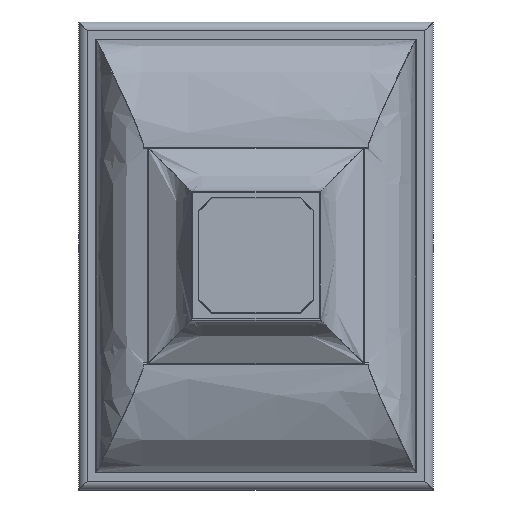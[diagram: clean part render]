
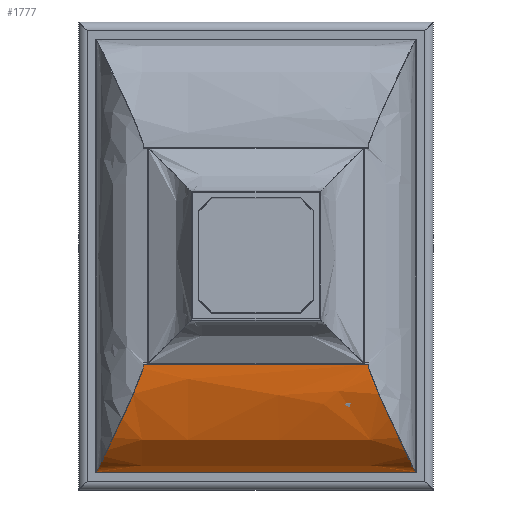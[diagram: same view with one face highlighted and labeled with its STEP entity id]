
A CAD part, top view. The second image highlights one B-rep face of the part: STEP entity #1777.
In plain terms, the highlighted face is a extrusion surface.
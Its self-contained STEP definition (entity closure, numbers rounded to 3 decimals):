
#1153=CARTESIAN_POINT('Vertex',(307.,-415.848,8.505)) ;
#1157=CARTESIAN_POINT('Control Point',(307.,-416.,5.007)) ;
#1158=CARTESIAN_POINT('Control Point',(307.,-415.982,5.707)) ;
#1159=CARTESIAN_POINT('Control Point',(307.,-415.958,6.407)) ;
#1160=CARTESIAN_POINT('Control Point',(307.,-415.928,7.106)) ;
#1161=CARTESIAN_POINT('Control Point',(307.,-415.891,7.806)) ;
#1162=CARTESIAN_POINT('Control Point',(307.,-415.848,8.505)) ;
#1163=CARTESIAN_POINT('Vertex',(307.,-416.,5.007)) ;
#1654=CARTESIAN_POINT('Control Point',(307.,-416.,5.007)) ;
#1655=CARTESIAN_POINT('Control Point',(307.,-415.906,8.698)) ;
#1656=CARTESIAN_POINT('Control Point',(307.,-415.638,12.389)) ;
#1657=CARTESIAN_POINT('Control Point',(307.,-415.187,16.073)) ;
#1658=CARTESIAN_POINT('Control Point',(307.,-413.578,24.713)) ;
#1659=CARTESIAN_POINT('Control Point',(307.,-410.657,33.02)) ;
#1660=CARTESIAN_POINT('Control Point',(307.,-408.515,37.657)) ;
#1661=CARTESIAN_POINT('Control Point',(307.,-403.72,46.294)) ;
#1662=CARTESIAN_POINT('Control Point',(307.,-397.913,54.251)) ;
#1663=CARTESIAN_POINT('Control Point',(307.,-394.922,57.936)) ;
#1664=CARTESIAN_POINT('Control Point',(307.,-385.937,67.945)) ;
#1665=CARTESIAN_POINT('Control Point',(307.,-375.677,76.701)) ;
#1666=CARTESIAN_POINT('Control Point',(307.,-368.586,81.875)) ;
#1667=CARTESIAN_POINT('Control Point',(307.,-350.786,93.224)) ;
#1668=CARTESIAN_POINT('Control Point',(307.,-331.647,102.153)) ;
#1669=CARTESIAN_POINT('Control Point',(307.,-320.232,106.64)) ;
#1670=CARTESIAN_POINT('Control Point',(307.,-297.003,114.277)) ;
#1671=CARTESIAN_POINT('Control Point',(307.,-273.071,119.46)) ;
#1672=CARTESIAN_POINT('Control Point',(307.,-260.999,121.481)) ;
#1673=CARTESIAN_POINT('Control Point',(307.,-243.352,123.64)) ;
#1674=CARTESIAN_POINT('Control Point',(307.,-225.643,124.679)) ;
#1675=CARTESIAN_POINT('Control Point',(307.,-220.099,124.895)) ;
#1676=CARTESIAN_POINT('Control Point',(307.,-214.552,125.002)) ;
#1677=CARTESIAN_POINT('Control Point',(307.,-209.,125.)) ;
#1681=CARTESIAN_POINT('Line Origine',(-0.66,-209.,125.)) ;
#1685=CARTESIAN_POINT('Vertex',(215.723,-209.,125.)) ;
#1687=CARTESIAN_POINT('Vertex',(-215.723,-209.,125.)) ;
#1691=CARTESIAN_POINT('Control Point',(-215.723,-209.,125.)) ;
#1692=CARTESIAN_POINT('Control Point',(-215.711,-211.15,125.001)) ;
#1693=CARTESIAN_POINT('Control Point',(-215.978,-213.301,124.985)) ;
#1694=CARTESIAN_POINT('Control Point',(-216.544,-215.546,124.951)) ;
#1695=CARTESIAN_POINT('Control Point',(-217.937,-220.275,124.843)) ;
#1696=CARTESIAN_POINT('Control Point',(-219.647,-224.898,124.662)) ;
#1697=CARTESIAN_POINT('Control Point',(-220.636,-227.495,124.536)) ;
#1698=CARTESIAN_POINT('Control Point',(-224.006,-236.073,124.041)) ;
#1699=CARTESIAN_POINT('Control Point',(-227.546,-244.571,123.29)) ;
#1700=CARTESIAN_POINT('Control Point',(-229.989,-250.401,122.651)) ;
#1701=CARTESIAN_POINT('Control Point',(-236.96,-266.751,120.502)) ;
#1702=CARTESIAN_POINT('Control Point',(-244.114,-282.888,117.364)) ;
#1703=CARTESIAN_POINT('Control Point',(-248.736,-293.042,114.951)) ;
#1704=CARTESIAN_POINT('Control Point',(-257.88,-312.619,109.379)) ;
#1705=CARTESIAN_POINT('Control Point',(-266.973,-331.598,101.993)) ;
#1706=CARTESIAN_POINT('Control Point',(-271.32,-340.653,97.947)) ;
#1707=CARTESIAN_POINT('Control Point',(-279.306,-357.43,89.34)) ;
#1708=CARTESIAN_POINT('Control Point',(-286.751,-373.194,78.585)) ;
#1709=CARTESIAN_POINT('Control Point',(-290.095,-380.279,73.011)) ;
#1710=CARTESIAN_POINT('Control Point',(-294.906,-390.392,63.577)) ;
#1711=CARTESIAN_POINT('Control Point',(-299.041,-399.154,52.631)) ;
#1712=CARTESIAN_POINT('Control Point',(-300.373,-401.999,48.669)) ;
#1713=CARTESIAN_POINT('Control Point',(-302.618,-406.837,41.028)) ;
#1714=CARTESIAN_POINT('Control Point',(-304.411,-410.662,32.748)) ;
#1715=CARTESIAN_POINT('Control Point',(-305.126,-412.157,28.815)) ;
#1716=CARTESIAN_POINT('Control Point',(-306.056,-414.018,22.422)) ;
#1717=CARTESIAN_POINT('Control Point',(-306.645,-415.145,15.834)) ;
#1718=CARTESIAN_POINT('Control Point',(-306.813,-415.464,13.396)) ;
#1719=CARTESIAN_POINT('Control Point',(-306.931,-415.696,10.954)) ;
#1720=CARTESIAN_POINT('Control Point',(-307.,-415.848,8.505)) ;
#1721=CARTESIAN_POINT('Vertex',(-307.,-415.848,8.505)) ;
#1725=CARTESIAN_POINT('Control Point',(-307.,-415.848,8.505)) ;
#1726=CARTESIAN_POINT('Control Point',(-307.,-415.92,7.34)) ;
#1727=CARTESIAN_POINT('Control Point',(-307.,-415.97,6.173)) ;
#1728=CARTESIAN_POINT('Control Point',(-307.,-416.,5.007)) ;
#1729=CARTESIAN_POINT('Vertex',(-307.,-416.,5.007)) ;
#1732=CARTESIAN_POINT('Line Origine',(-0.66,-416.,5.007)) ;
#1738=CARTESIAN_POINT('Control Point',(215.723,-209.,125.)) ;
#1739=CARTESIAN_POINT('Control Point',(215.711,-211.15,125.001)) ;
#1740=CARTESIAN_POINT('Control Point',(215.978,-213.301,124.985)) ;
#1741=CARTESIAN_POINT('Control Point',(216.544,-215.546,124.951)) ;
#1742=CARTESIAN_POINT('Control Point',(217.937,-220.275,124.843)) ;
#1743=CARTESIAN_POINT('Control Point',(219.647,-224.898,124.662)) ;
#1744=CARTESIAN_POINT('Control Point',(220.636,-227.495,124.536)) ;
#1745=CARTESIAN_POINT('Control Point',(224.006,-236.073,124.041)) ;
#1746=CARTESIAN_POINT('Control Point',(227.546,-244.571,123.29)) ;
#1747=CARTESIAN_POINT('Control Point',(229.989,-250.401,122.651)) ;
#1748=CARTESIAN_POINT('Control Point',(236.96,-266.751,120.502)) ;
#1749=CARTESIAN_POINT('Control Point',(244.114,-282.888,117.364)) ;
#1750=CARTESIAN_POINT('Control Point',(248.736,-293.042,114.951)) ;
#1751=CARTESIAN_POINT('Control Point',(257.88,-312.619,109.379)) ;
#1752=CARTESIAN_POINT('Control Point',(266.973,-331.598,101.993)) ;
#1753=CARTESIAN_POINT('Control Point',(271.32,-340.653,97.947)) ;
#1754=CARTESIAN_POINT('Control Point',(279.306,-357.43,89.34)) ;
#1755=CARTESIAN_POINT('Control Point',(286.751,-373.194,78.585)) ;
#1756=CARTESIAN_POINT('Control Point',(290.095,-380.279,73.011)) ;
#1757=CARTESIAN_POINT('Control Point',(294.906,-390.392,63.577)) ;
#1758=CARTESIAN_POINT('Control Point',(299.041,-399.154,52.631)) ;
#1759=CARTESIAN_POINT('Control Point',(300.373,-401.999,48.669)) ;
#1760=CARTESIAN_POINT('Control Point',(302.618,-406.837,41.028)) ;
#1761=CARTESIAN_POINT('Control Point',(304.411,-410.662,32.748)) ;
#1762=CARTESIAN_POINT('Control Point',(305.126,-412.157,28.815)) ;
#1763=CARTESIAN_POINT('Control Point',(306.056,-414.018,22.422)) ;
#1764=CARTESIAN_POINT('Control Point',(306.645,-415.145,15.834)) ;
#1765=CARTESIAN_POINT('Control Point',(306.813,-415.464,13.396)) ;
#1766=CARTESIAN_POINT('Control Point',(306.931,-415.696,10.954)) ;
#1767=CARTESIAN_POINT('Control Point',(307.,-415.848,8.505)) ;
#1678=DIRECTION('Vector Direction',(-1.,0.,0.)) ;
#1682=DIRECTION('Vector Direction',(-1.,0.,0.)) ;
#1733=DIRECTION('Vector Direction',(-1.,0.,0.)) ;
#1770=ORIENTED_EDGE('',*,*,#1689,.T.) ;
#1771=ORIENTED_EDGE('',*,*,#1723,.T.) ;
#1772=ORIENTED_EDGE('',*,*,#1731,.T.) ;
#1773=ORIENTED_EDGE('',*,*,#1736,.F.) ;
#1774=ORIENTED_EDGE('',*,*,#1165,.T.) ;
#1775=ORIENTED_EDGE('',*,*,#1768,.F.) ;
#1679=VECTOR('Extrusion Surface Vector',#1678,1.) ;
#1683=VECTOR('Line Direction',#1682,1.) ;
#1734=VECTOR('Line Direction',#1733,1.) ;
#1777=ADVANCED_FACE('Involucro',(#1776),#1680,.T.) ;
#1156=B_SPLINE_CURVE_WITH_KNOTS('',5,(#1157,#1158,#1159,#1160,#1161,#1162),.UNSPECIFIED.,.F.,.U.,(6,6),(5.007,8.506),.UNSPECIFIED.) ;
#1653=B_SPLINE_CURVE_WITH_KNOTS('',5,(#1654,#1655,#1656,#1657,#1658,#1659,#1660,#1661,#1662,#1663,#1664,#1665,#1666,#1667,#1668,#1669,#1670,#1671,#1672,#1673,#1674,#1675,#1676,#1677),.UNSPECIFIED.,.F.,.U.,(6,3,3,3,3,3,3,6),(5.007,23.462,48.749,72.425,115.972,177.14,238.072,265.81),.UNSPECIFIED.) ;
#1690=B_SPLINE_CURVE_WITH_KNOTS('',5,(#1691,#1692,#1693,#1694,#1695,#1696,#1697,#1698,#1699,#1700,#1701,#1702,#1703,#1704,#1705,#1706,#1707,#1708,#1709,#1710,#1711,#1712,#1713,#1714,#1715,#1716,#1717,#1718,#1719,#1720),.UNSPECIFIED.,.F.,.U.,(6,3,3,3,3,3,3,3,3,6),(0.,15.198,34.856,80.47,161.273,237.883,305.435,340.799,370.834,388.17),.UNSPECIFIED.) ;
#1724=B_SPLINE_CURVE_WITH_KNOTS('',3,(#1725,#1726,#1727,#1728),.UNSPECIFIED.,.F.,.U.,(4,4),(364.328,369.277),.UNSPECIFIED.) ;
#1737=B_SPLINE_CURVE_WITH_KNOTS('',5,(#1738,#1739,#1740,#1741,#1742,#1743,#1744,#1745,#1746,#1747,#1748,#1749,#1750,#1751,#1752,#1753,#1754,#1755,#1756,#1757,#1758,#1759,#1760,#1761,#1762,#1763,#1764,#1765,#1766,#1767),.UNSPECIFIED.,.F.,.U.,(6,3,3,3,3,3,3,3,3,6),(0.,15.198,34.856,80.47,161.273,237.883,305.435,340.799,370.834,388.17),.UNSPECIFIED.) ;
#1165=EDGE_CURVE('',#1164,#1154,#1156,.T.) ;
#1689=EDGE_CURVE('',#1686,#1688,#1684,.T.) ;
#1723=EDGE_CURVE('',#1688,#1722,#1690,.T.) ;
#1731=EDGE_CURVE('',#1722,#1730,#1724,.T.) ;
#1736=EDGE_CURVE('',#1164,#1730,#1735,.T.) ;
#1768=EDGE_CURVE('',#1686,#1154,#1737,.T.) ;
#1769=EDGE_LOOP('',(#1770,#1771,#1772,#1773,#1774,#1775)) ;
#1776=FACE_OUTER_BOUND('',#1769,.T.) ;
#1684=LINE('Line',#1681,#1683) ;
#1735=LINE('Line',#1732,#1734) ;
#1680=SURFACE_OF_LINEAR_EXTRUSION('generated tabulated cylinder',#1653,#1679) ;
#1154=VERTEX_POINT('',#1153) ;
#1164=VERTEX_POINT('',#1163) ;
#1686=VERTEX_POINT('',#1685) ;
#1688=VERTEX_POINT('',#1687) ;
#1722=VERTEX_POINT('',#1721) ;
#1730=VERTEX_POINT('',#1729) ;
